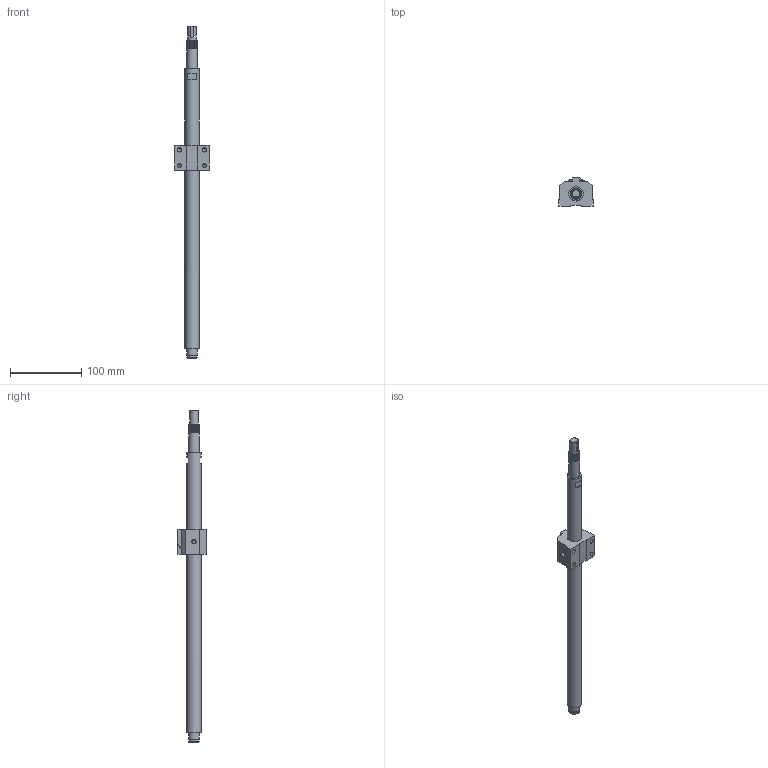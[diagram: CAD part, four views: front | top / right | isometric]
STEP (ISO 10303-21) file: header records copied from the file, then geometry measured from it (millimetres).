
FILE_DESCRIPTION(/* description */ (''),/* implementation_level */ '2;1');
FILE_NAME(/* name */ 'BSG496_asm1.stp',/* time_stamp */ '2017-01-17T15:27:18+08:00',/* author */ (''),/* organization */ (''),/* preprocessor_version */ 'ST-DEVELOPER v15',/* originating_system */ 'SIEMENS PLM Software NX 8.5',/* authorisation */ '');
FILE_SCHEMA (('AUTOMOTIVE_DESIGN { 1 0 10303 214 3 1 1 1 }'));
Length unit declared in the file: millimetre
Products named in the file (3): 01; BSG187; BSG496_asm1
Assembly tree (2 placements, depth 2):
  BSG496_asm1
    BSG187
    01
Bounding box: 48 x 39.5 x 465 mm (x, y, z)
Volume: 43021.6 mm3; surface area: 40578 mm2
Topology: 1 solids, 2 shells, 93 faces, 222 edges, 148 vertices
Faces by surface type: plane 47, cylinder 34, cone 6, torus 4, bspline 2
Full cylindrical faces by diameter (mm): 3.5 x2, 5 x5, 6 x7, 12 x1, 14.3 x1, 15 x14, 20 x2
Entity records: 4945 total; most frequent: CARTESIAN_POINT 3189, DIRECTION 344, ORIENTED_EDGE 290, EDGE_CURVE 145, AXIS2_PLACEMENT_3D 135, EDGE_LOOP 134, VERTEX_POINT 115, FACE_BOUND 106
